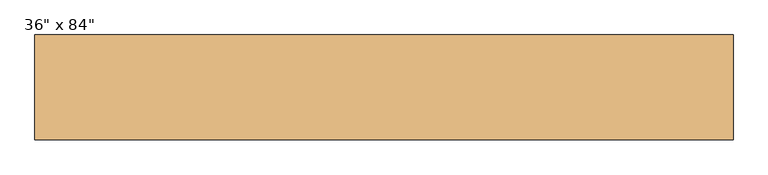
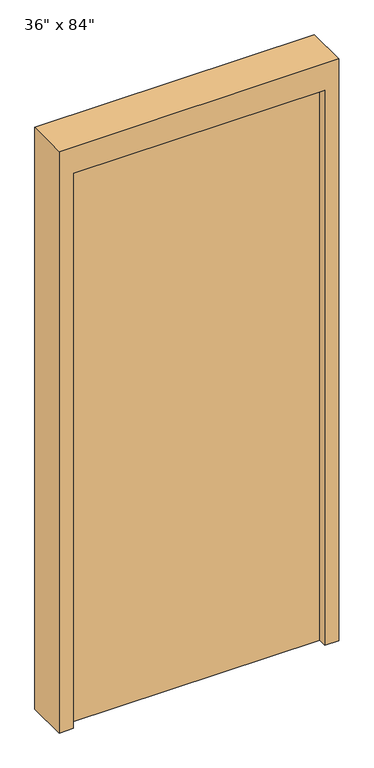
"""IFC4 building model written with IfcOpenShell, lengths in millimetres: door geometry."""

import ifcopenshell
import ifcopenshell.guid

model = None  # the IFC model being written
_history = None  # IfcOwnerHistory: only IFC2X3 demands one
_inside = {}  # id of a spatial element -> (the spatial element, [elements in it])
_under = {}  # id of a project, library or spatial element -> (it, [spatial elements below it])
_declared = {}  # id of a project -> (the project, [libraries it declares])
_typed = {}  # id of a type object -> (the type object, [elements of that type])
_made_of = {}  # id of a material, layer set ... -> (it, [elements and type objects made of it])


def new_model(schema):
    """Start an empty IFC model of exactly this schema.

    Asked for "IFC4X3", IfcOpenShell would pick the latest addendum, in which some entities
    have other attributes; the version numbers below select the first issue.
    IFC2X3 requires an IfcOwnerHistory on every rooted entity: one is made here for all.
    """
    global model, _history
    if schema == "IFC4X3":
        model = ifcopenshell.file(schema_version=(4, 3, 0, 0))
    else:
        model = ifcopenshell.file(schema=schema)
    _inside.clear()
    _under.clear()
    _declared.clear()
    _typed.clear()
    _made_of.clear()
    _history = None
    if model.schema == "IFC2X3":
        org = make("IfcOrganization", Name="unknown")
        user = make(
            "IfcPersonAndOrganization",
            ThePerson=make("IfcPerson", FamilyName="unknown"),
            TheOrganization=org,
        )
        app = make(
            "IfcApplication",
            ApplicationDeveloper=org,
            Version="unknown",
            ApplicationFullName="unknown",
            ApplicationIdentifier="unknown",
        )
        _history = make(
            "IfcOwnerHistory",
            OwningUser=user,
            OwningApplication=app,
            ChangeAction="ADDED",
            CreationDate=0,
        )
    return model


def make(cls, **values):
    """One entity of the class cls with the attributes given. An attribute that is None is left unset."""
    return model.create_entity(
        cls, **{name: value for name, value in values.items() if value is not None}
    )


def rooted(cls, **values):
    """An entity with a GlobalId (a new one), such as an element, a storey or a relation."""
    return make(cls, GlobalId=ifcopenshell.guid.new(), OwnerHistory=_history, **values)


def si_unit(unit_type, name, prefix=None):
    """IfcSIUnit, for example si_unit("LENGTHUNIT", "METRE", prefix="MILLI")."""
    return make("IfcSIUnit", UnitType=unit_type, Prefix=prefix, Name=name)


def assignment(units):
    """IfcUnitAssignment: the units of a project."""
    return None if units is None else make("IfcUnitAssignment", Units=units)


def point(xyz):
    """IfcCartesianPoint."""
    return None if xyz is None else make("IfcCartesianPoint", Coordinates=xyz)


def direction(xyz):
    """IfcDirection."""
    return None if xyz is None else make("IfcDirection", DirectionRatios=xyz)


def frame(location, z_axis=None, x_axis=None):
    """IfcAxis2Placement3D, a coordinate frame: its origin and axes. An axis left out is left unset."""
    return make(
        "IfcAxis2Placement3D",
        Location=point(location),
        Axis=direction(z_axis),
        RefDirection=direction(x_axis),
    )


def origin():
    """The frame at (0, 0, 0) with its axes left unset."""
    return frame((0.0, 0.0, 0.0))


def origin_with_axes():
    """The frame at (0, 0, 0) with the z axis (0, 0, 1) and the x axis (1, 0, 0) written out."""
    return frame((0.0, 0.0, 0.0), z_axis=(0.0, 0.0, 1.0), x_axis=(1.0, 0.0, 0.0))


def place(relative_to, where):
    """IfcLocalPlacement: puts the frame where relative to a parent placement (None: the world)."""
    return make(
        "IfcLocalPlacement", PlacementRelTo=relative_to, RelativePlacement=where
    )


def context(
    kind, dimensions, precision=None, world=None, true_north=None, identifier=None
):
    """IfcGeometricRepresentationContext, for example the 3D "Model" context."""
    return make(
        "IfcGeometricRepresentationContext",
        ContextIdentifier=identifier,
        ContextType=kind,
        CoordinateSpaceDimension=dimensions,
        Precision=precision,
        WorldCoordinateSystem=world,
        TrueNorth=true_north,
    )


def project(units=None, contexts=None):
    """IfcProject with its units and contexts."""
    return rooted(
        "IfcProject",
        Name="project",
        RepresentationContexts=contexts,
        UnitsInContext=assignment(units),
    )


def spatial(cls, under=None, at=None, **own):
    """A site, building, storey or space (cls), placed at a placement, below another one or the project."""
    s = rooted(cls, ObjectPlacement=at, **own)
    if under is not None:
        _under.setdefault(under.id(), (under, []))[1].append(s)
    return s


def polyline(points):
    """IfcPolyline through the points."""
    return make("IfcPolyline", Points=[point(p) for p in points])


def outline(outer, holes=None, kind="AREA"):
    """IfcArbitraryClosedProfileDef: a profile drawn as a closed curve; with holes, ...WithVoids."""
    if holes is None:
        return make("IfcArbitraryClosedProfileDef", ProfileType=kind, OuterCurve=outer)
    return make(
        "IfcArbitraryProfileDefWithVoids",
        ProfileType=kind,
        OuterCurve=outer,
        InnerCurves=holes,
    )


def extrude(swept, where, along, depth):
    """IfcExtrudedAreaSolid: the profile swept, set in the frame where, extruded along a direction by depth."""
    return make(
        "IfcExtrudedAreaSolid",
        SweptArea=swept,
        Position=where,
        ExtrudedDirection=direction(along),
        Depth=depth,
    )


def shape(context_of_items, identifier, shape_type, items):
    """IfcShapeRepresentation: the items that make up one representation, for example the "Body"."""
    return make(
        "IfcShapeRepresentation",
        ContextOfItems=context_of_items,
        RepresentationIdentifier=identifier,
        RepresentationType=shape_type,
        Items=items,
    )


def source(mapping_origin, context_of_items, identifier, shape_type, items):
    """IfcRepresentationMap: a shape defined once, which mapped items show again and again."""
    return make(
        "IfcRepresentationMap",
        MappingOrigin=mapping_origin,
        MappedRepresentation=shape(context_of_items, identifier, shape_type, items),
    )


def transform(
    local_origin,
    x_axis=None,
    y_axis=None,
    z_axis=None,
    scale=None,
    scale2=None,
    scale3=None,
    uniform=True,
):
    """IfcCartesianTransformationOperator3D, or its non-uniform kind. x_axis, y_axis, z_axis: its Axis1, 2, 3."""
    if uniform:
        return make(
            "IfcCartesianTransformationOperator3D",
            Axis1=direction(x_axis),
            Axis2=direction(y_axis),
            LocalOrigin=point(local_origin),
            Scale=scale,
            Axis3=direction(z_axis),
        )
    return make(
        "IfcCartesianTransformationOperator3DnonUniform",
        Axis1=direction(x_axis),
        Axis2=direction(y_axis),
        LocalOrigin=point(local_origin),
        Scale=scale,
        Axis3=direction(z_axis),
        Scale2=scale2,
        Scale3=scale3,
    )


def mapped(mapping_source, mapping_target):
    """IfcMappedItem: shows the shape of a source again, moved by a transform."""
    return make(
        "IfcMappedItem", MappingSource=mapping_source, MappingTarget=mapping_target
    )


def made_of(thing, what):
    """Note that an element or type object is made of a material, layer set ...; save() writes the relation."""
    if what is not None:
        _made_of.setdefault(what.id(), (what, []))[1].append(thing)
    return thing


def element(
    cls,
    number,
    at=None,
    inside=None,
    cuts=None,
    type_object=None,
    material=None,
    context=None,
    identifier="Body",
    shape_type=None,
    held_by="IfcProductDefinitionShape",
    body=None,
    shapes=None,
    **own,
):
    """One element of the class cls, such as IfcWall. Its Tag is "e" and its number.

    at: its placement. inside: the storey or other place that contains it. cuts: it is an
    opening in that element (IfcRelVoidsElement). A single representation is given by context,
    identifier, shape_type and body (its items); several are given by shapes. held_by: the class
    of the entity that holds the representations. save() writes the other relations.
    """
    e = rooted(cls, Tag="e%d" % number, ObjectPlacement=at, **own)
    if body is not None:
        shapes = [shape(context, identifier, shape_type, body)]
    if shapes is not None:
        e.Representation = make(held_by, Representations=shapes)
    if inside is not None:
        _inside.setdefault(inside.id(), (inside, []))[1].append(e)
    if cuts is not None:
        rooted(
            "IfcRelVoidsElement", RelatingBuildingElement=cuts, RelatedOpeningElement=e
        )
    if type_object is not None:
        _typed.setdefault(type_object.id(), (type_object, []))[1].append(e)
    return made_of(e, material)


def aggregate(whole, parts):
    """IfcRelAggregates: a whole, such as a stair, and the parts it consists of."""
    return rooted("IfcRelAggregates", RelatingObject=whole, RelatedObjects=parts)


def save(model, path):
    """Write the relations noted so far, then the file.

    IfcRelAggregates (storeys below a building ...), IfcRelContainedInSpatialStructure (elements
    in a storey), IfcRelDefinesByType, IfcRelAssociatesMaterial and IfcRelDeclares: one each for
    every whole, place, type object, material and project.
    """
    for whole, parts in _under.values():
        aggregate(whole, parts)
    for where, things in _inside.values():
        rooted(
            "IfcRelContainedInSpatialStructure",
            RelatedElements=things,
            RelatingStructure=where,
        )
    for kind, things in _typed.values():
        rooted("IfcRelDefinesByType", RelatedObjects=things, RelatingType=kind)
    for what, things in _made_of.values():
        rooted("IfcRelAssociatesMaterial", RelatedObjects=things, RelatingMaterial=what)
    for by, libraries in _declared.values():
        rooted("IfcRelDeclares", RelatingContext=by, RelatedDefinitions=libraries)
    model.write(path)


def door_b9193a00(model_context):
    return source(origin(), model_context, "Body", "SweptSolid", [
        extrude(outline(polyline([(0.0, 508.0), (2235.2, 508.0), (2235.2, -508.0), (0.0, -508.0), (0.0, -457.2), (2133.6, -457.2), (2133.6, 457.2), (0.0, 457.2), (0.0, 508.0)])), frame((0.0, -76.2, 0.0), z_axis=(0.0, 1.0, 0.0), x_axis=(0.0, 0.0, 1.0)), (0.0, 0.0, 1.0), 152.4),
        extrude(outline(polyline([(457.2, 0.0), (457.2, -44.45), (-457.2, -44.45), (-457.2, 0.0), (457.2, 0.0)])), origin_with_axes(), (0.0, 0.0, 1.0), 2133.6),
    ])


if __name__ == "__main__":
    model = new_model("IFC4")
    model_context = context("Model", 3, world=origin())
    ifc_project = project(units=[si_unit("LENGTHUNIT", "METRE", prefix="MILLI")], contexts=[model_context])
    site = spatial("IfcSite", under=ifc_project)
    building = spatial("IfcBuilding", under=site)
    placement = place(None, origin())
    door_shape = door_b9193a00(model_context)
    element("IfcDoor", 1, ObjectType="Door_Single-Masonry_Center_USACE : 36\" x 84\"", at=placement, inside=building, context=model_context, shape_type="MappedRepresentation", body=[
        mapped(door_shape, transform((0.0, 0.0, 0.0), x_axis=(1.0, 0.0, 0.0), y_axis=(0.0, 1.0, 0.0), z_axis=(0.0, 0.0, 1.0))),
    ])
    save(model, "model.ifc")
